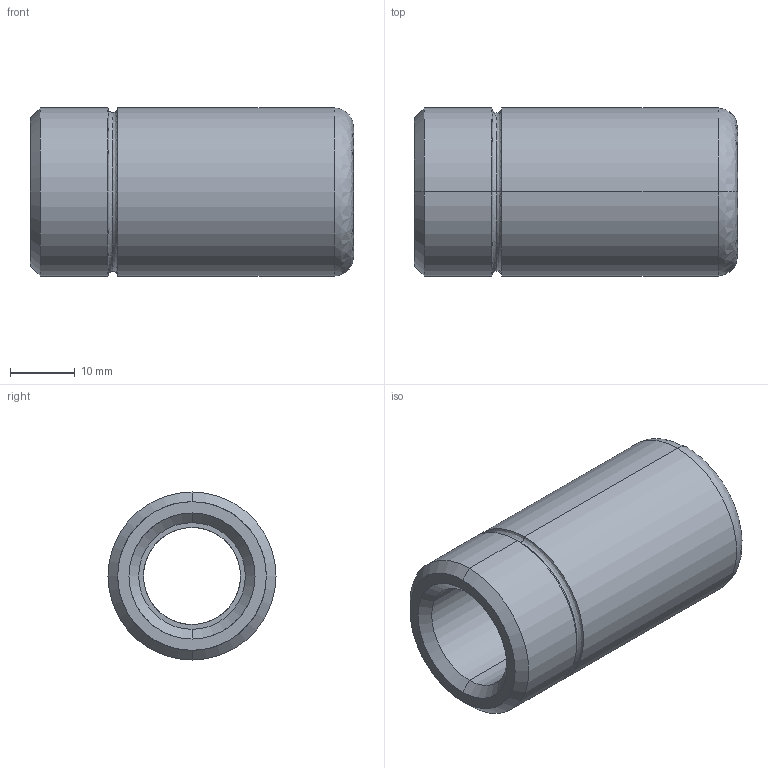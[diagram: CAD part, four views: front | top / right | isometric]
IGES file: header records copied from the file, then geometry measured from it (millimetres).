
Start section: START RECORD GO HERE.
Global section: file name: 348-15 x 50.igs; native system: DASSAULT SYSTEMES CATIA V5 R20 - www.3ds.com; preprocessor: CATIA Version 5 Release 20 ; author: Utente; organization: NB04-ASUS; date: 20201230.214618; units: millimetre
Bounding box: 50 x 26 x 26 mm (x, y, z)
Surface area: 7163.8 mm2 (no closed solid volume)
Topology: 0 solids, 0 shells, 29 faces, 172 edges, 172 vertices
Faces by surface type: revolution 26, plane 3
